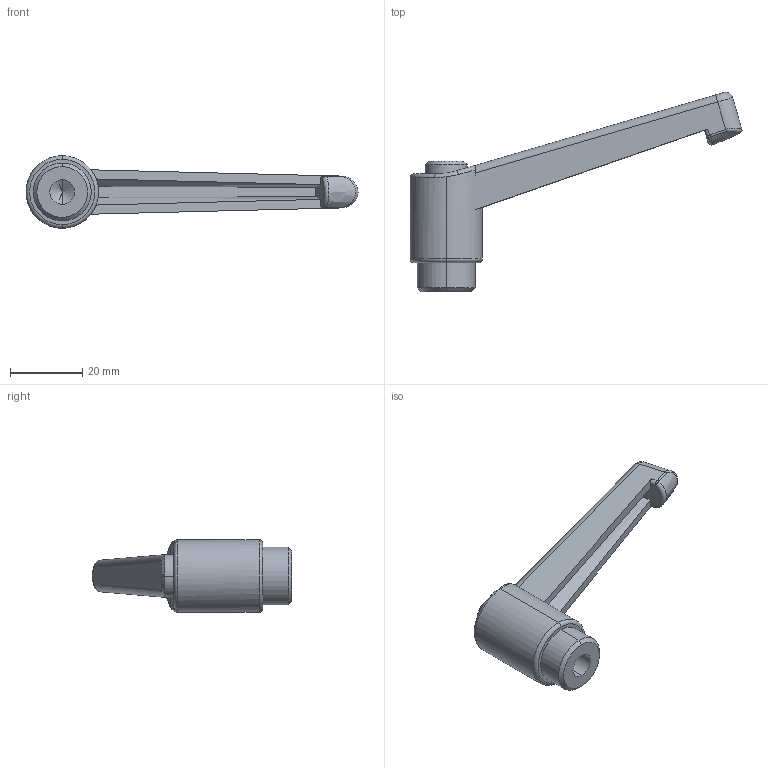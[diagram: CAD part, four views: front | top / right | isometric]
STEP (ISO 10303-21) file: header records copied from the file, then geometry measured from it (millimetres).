
FILE_DESCRIPTION (( 'STEP AP203' ), '1' );
FILE_NAME ('A-403-78-M8.STEP', '2015-11-21T17:44:55', ( '' ), ( '' ), 'SwSTEP 2.0', 'SolidWorks 2014', '' );
FILE_SCHEMA (( 'CONFIG_CONTROL_DESIGN' ));
Length unit declared in the file: millimetre
Products named in the file (1): A-403-78-M8
Bounding box: 91.66 x 55.01 x 20 mm (x, y, z)
Volume: 15556.2 mm3; surface area: 6342.1 mm2
Topology: 1 solids, 1 shells, 55 faces, 132 edges, 79 vertices
Faces by surface type: cylinder 15, plane 15, bspline 11, cone 6, torus 4, sphere 4
Entity records: 2133 total; most frequent: CARTESIAN_POINT 887, ORIENTED_EDGE 260, DIRECTION 229, EDGE_CURVE 130, AXIS2_PLACEMENT_3D 95, VERTEX_POINT 79, EDGE_LOOP 57, ADVANCED_FACE 55
